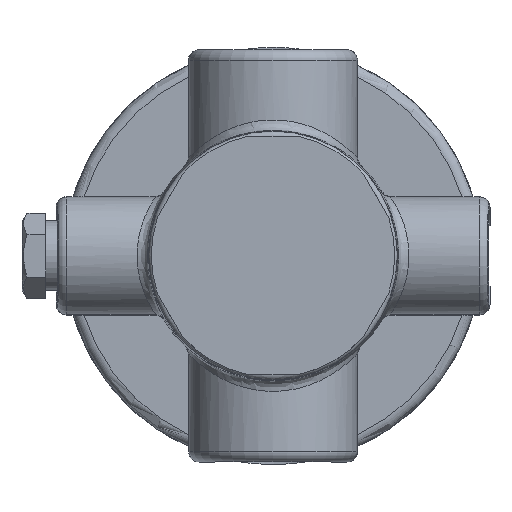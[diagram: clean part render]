
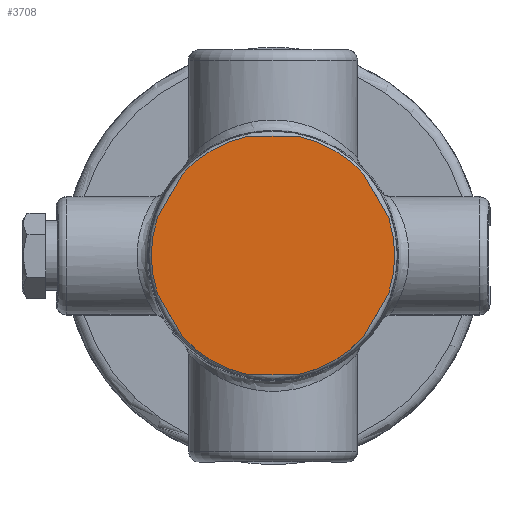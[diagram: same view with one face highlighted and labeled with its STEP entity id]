
A CAD part, top view. The second image highlights one B-rep face of the part: STEP entity #3708.
In plain terms, the highlighted planar face has unit normal (0, 0, 1) as drawn and (0, -1, 0) by its records, which use the part's own axes.
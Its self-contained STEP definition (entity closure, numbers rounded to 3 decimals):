
#194=PLANE('',#4123);
#425=FACE_OUTER_BOUND('',#657,.T.);
#657=EDGE_LOOP('',(#2999,#3000,#3001,#3002,#3003,#3004,#3005,#3006,#3007,
#3008,#3009,#3010));
#957=LINE('',#7338,#1128);
#960=LINE('',#7344,#1131);
#963=LINE('',#7348,#1134);
#968=LINE('',#7363,#1139);
#972=LINE('',#7375,#1143);
#974=LINE('',#7384,#1145);
#1128=VECTOR('',#4832,10.);
#1131=VECTOR('',#4837,10.);
#1134=VECTOR('',#4842,10.);
#1139=VECTOR('',#4855,10.);
#1143=VECTOR('',#4867,10.);
#1145=VECTOR('',#4883,10.);
#1339=CIRCLE('',#4100,23.);
#1341=CIRCLE('',#4103,23.);
#1343=CIRCLE('',#4109,23.);
#1345=CIRCLE('',#4113,23.);
#1347=CIRCLE('',#4117,23.);
#1349=CIRCLE('',#4120,23.);
#1643=VERTEX_POINT('',#7317);
#1644=VERTEX_POINT('',#7319);
#1647=VERTEX_POINT('',#7326);
#1648=VERTEX_POINT('',#7328);
#1651=VERTEX_POINT('',#7335);
#1652=VERTEX_POINT('',#7337);
#1654=VERTEX_POINT('',#7343);
#1657=VERTEX_POINT('',#7353);
#1658=VERTEX_POINT('',#7355);
#1660=VERTEX_POINT('',#7361);
#1662=VERTEX_POINT('',#7367);
#1664=VERTEX_POINT('',#7373);
#2106=EDGE_CURVE('',#1644,#1643,#1339,.T.);
#2110=EDGE_CURVE('',#1648,#1647,#1341,.T.);
#2114=EDGE_CURVE('',#1652,#1651,#957,.T.);
#2117=EDGE_CURVE('',#1654,#1644,#960,.T.);
#2120=EDGE_CURVE('',#1643,#1648,#963,.T.);
#2123=EDGE_CURVE('',#1658,#1657,#1343,.T.);
#2127=EDGE_CURVE('',#1657,#1660,#968,.T.);
#2130=EDGE_CURVE('',#1660,#1662,#1345,.T.);
#2133=EDGE_CURVE('',#1662,#1664,#972,.T.);
#2135=EDGE_CURVE('',#1664,#1652,#1347,.T.);
#2137=EDGE_CURVE('',#1651,#1654,#1349,.T.);
#2139=EDGE_CURVE('',#1647,#1658,#974,.T.);
#2999=ORIENTED_EDGE('',*,*,#2120,.T.);
#3000=ORIENTED_EDGE('',*,*,#2110,.T.);
#3001=ORIENTED_EDGE('',*,*,#2139,.T.);
#3002=ORIENTED_EDGE('',*,*,#2123,.T.);
#3003=ORIENTED_EDGE('',*,*,#2127,.T.);
#3004=ORIENTED_EDGE('',*,*,#2130,.T.);
#3005=ORIENTED_EDGE('',*,*,#2133,.T.);
#3006=ORIENTED_EDGE('',*,*,#2135,.T.);
#3007=ORIENTED_EDGE('',*,*,#2114,.T.);
#3008=ORIENTED_EDGE('',*,*,#2137,.T.);
#3009=ORIENTED_EDGE('',*,*,#2117,.T.);
#3010=ORIENTED_EDGE('',*,*,#2106,.T.);
#3708=ADVANCED_FACE('',(#425),#194,.T.);
#4100=AXIS2_PLACEMENT_3D('',#7320,#4817,#4818);
#4103=AXIS2_PLACEMENT_3D('',#7329,#4825,#4826);
#4109=AXIS2_PLACEMENT_3D('',#7356,#4848,#4849);
#4113=AXIS2_PLACEMENT_3D('',#7369,#4861,#4862);
#4117=AXIS2_PLACEMENT_3D('',#7378,#4872,#4873);
#4120=AXIS2_PLACEMENT_3D('',#7381,#4878,#4879);
#4123=AXIS2_PLACEMENT_3D('',#7386,#4886,#4887);
#4817=DIRECTION('center_axis',(0.,-1.,0.));
#4818=DIRECTION('ref_axis',(-0.207,0.,0.978));
#4825=DIRECTION('center_axis',(0.,-1.,0.));
#4826=DIRECTION('ref_axis',(-0.951,0.,0.31));
#4832=DIRECTION('',(-0.5,0.,0.866));
#4837=DIRECTION('',(-1.,0.,0.));
#4842=DIRECTION('',(-0.5,0.,-0.866));
#4848=DIRECTION('center_axis',(0.,-1.,0.));
#4849=DIRECTION('ref_axis',(-0.744,0.,-0.669));
#4855=DIRECTION('',(1.,0.,0.));
#4861=DIRECTION('center_axis',(0.,-1.,0.));
#4862=DIRECTION('ref_axis',(0.207,0.,-0.978));
#4867=DIRECTION('',(0.5,0.,0.866));
#4872=DIRECTION('center_axis',(0.,-1.,0.));
#4873=DIRECTION('ref_axis',(0.951,0.,-0.31));
#4878=DIRECTION('center_axis',(0.,-1.,0.));
#4879=DIRECTION('ref_axis',(0.744,0.,0.669));
#4883=DIRECTION('',(0.5,0.,-0.866));
#4886=DIRECTION('center_axis',(0.,-1.,0.));
#4887=DIRECTION('ref_axis',(0.,0.,-1.));
#7317=CARTESIAN_POINT('',(-17.101,-0.5,15.381));
#7319=CARTESIAN_POINT('',(-4.77,-0.5,22.5));
#7320=CARTESIAN_POINT('Origin',(0.,-0.5,0.));
#7326=CARTESIAN_POINT('',(-21.87,-0.5,-7.119));
#7328=CARTESIAN_POINT('',(-21.87,-0.5,7.119));
#7329=CARTESIAN_POINT('Origin',(0.,-0.5,0.));
#7335=CARTESIAN_POINT('',(17.101,-0.5,15.381));
#7337=CARTESIAN_POINT('',(21.87,-0.5,7.119));
#7338=CARTESIAN_POINT('',(19.272,-0.5,11.62));
#7343=CARTESIAN_POINT('',(4.77,-0.5,22.5));
#7344=CARTESIAN_POINT('',(-3.24,-0.5,22.5));
#7348=CARTESIAN_POINT('',(-19.699,-0.5,10.88));
#7353=CARTESIAN_POINT('',(-4.77,-0.5,-22.5));
#7355=CARTESIAN_POINT('',(-17.101,-0.5,-15.381));
#7356=CARTESIAN_POINT('Origin',(0.,-0.5,0.));
#7361=CARTESIAN_POINT('',(4.77,-0.5,-22.5));
#7363=CARTESIAN_POINT('',(-8.01,-0.5,-22.5));
#7367=CARTESIAN_POINT('',(17.101,-0.5,-15.381));
#7369=CARTESIAN_POINT('Origin',(0.,-0.5,0.));
#7373=CARTESIAN_POINT('',(21.87,-0.5,-7.119));
#7375=CARTESIAN_POINT('',(16.887,-0.5,-15.751));
#7378=CARTESIAN_POINT('Origin',(0.,-0.5,0.));
#7381=CARTESIAN_POINT('Origin',(0.,-0.5,0.));
#7384=CARTESIAN_POINT('',(-22.084,-0.5,-6.749));
#7386=CARTESIAN_POINT('Origin',(-11.25,-0.5,0.));
